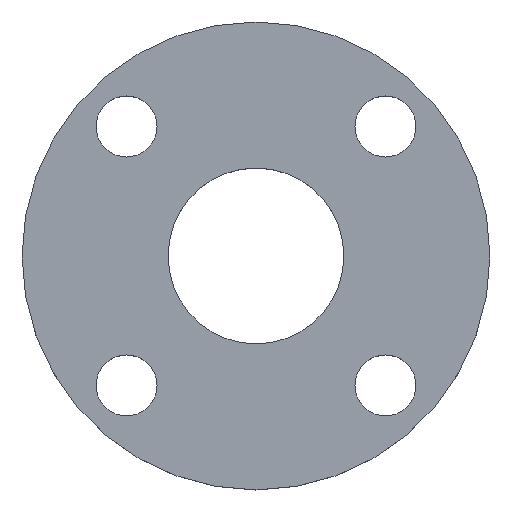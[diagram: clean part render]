
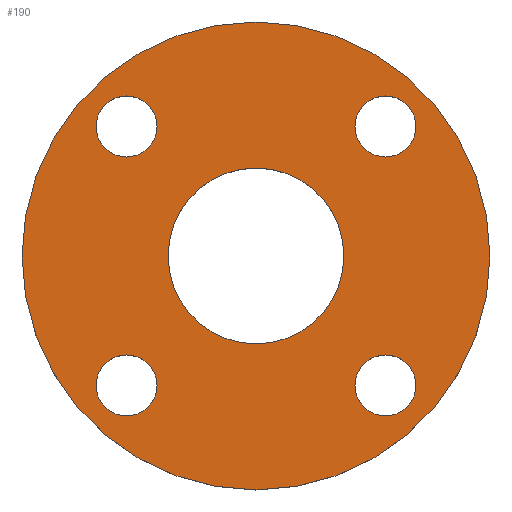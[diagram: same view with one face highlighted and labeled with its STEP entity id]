
A CAD part, top view. The second image highlights one B-rep face of the part: STEP entity #190.
In plain terms, the highlighted planar face has unit normal (0, 0, 1).
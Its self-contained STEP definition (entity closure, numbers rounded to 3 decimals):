
#15=FACE_BOUND('',#42,.T.);
#16=FACE_BOUND('',#43,.T.);
#17=FACE_BOUND('',#44,.T.);
#18=FACE_BOUND('',#45,.T.);
#19=FACE_BOUND('',#46,.T.);
#25=PLANE('',#237);
#33=FACE_OUTER_BOUND('',#41,.T.);
#41=EDGE_LOOP('',(#159,#160));
#42=EDGE_LOOP('',(#161,#162));
#43=EDGE_LOOP('',(#163,#164));
#44=EDGE_LOOP('',(#165,#166));
#45=EDGE_LOOP('',(#167,#168));
#46=EDGE_LOOP('',(#169,#170));
#65=CIRCLE('',#213,7.5);
#66=CIRCLE('',#214,7.5);
#68=CIRCLE('',#217,7.5);
#69=CIRCLE('',#218,7.5);
#71=CIRCLE('',#221,7.5);
#72=CIRCLE('',#222,7.5);
#74=CIRCLE('',#225,7.5);
#75=CIRCLE('',#226,7.5);
#77=CIRCLE('',#229,21.6);
#78=CIRCLE('',#230,21.6);
#80=CIRCLE('',#233,57.5);
#81=CIRCLE('',#234,57.5);
#84=VERTEX_POINT('',#303);
#85=VERTEX_POINT('',#304);
#87=VERTEX_POINT('',#311);
#88=VERTEX_POINT('',#312);
#90=VERTEX_POINT('',#319);
#91=VERTEX_POINT('',#320);
#93=VERTEX_POINT('',#327);
#94=VERTEX_POINT('',#328);
#96=VERTEX_POINT('',#335);
#97=VERTEX_POINT('',#336);
#99=VERTEX_POINT('',#343);
#100=VERTEX_POINT('',#344);
#103=EDGE_CURVE('',#84,#85,#65,.T.);
#104=EDGE_CURVE('',#85,#84,#66,.T.);
#107=EDGE_CURVE('',#87,#88,#68,.T.);
#108=EDGE_CURVE('',#88,#87,#69,.T.);
#111=EDGE_CURVE('',#90,#91,#71,.T.);
#112=EDGE_CURVE('',#91,#90,#72,.T.);
#115=EDGE_CURVE('',#93,#94,#74,.T.);
#116=EDGE_CURVE('',#94,#93,#75,.T.);
#119=EDGE_CURVE('',#96,#97,#77,.T.);
#120=EDGE_CURVE('',#97,#96,#78,.T.);
#123=EDGE_CURVE('',#99,#100,#80,.T.);
#124=EDGE_CURVE('',#100,#99,#81,.T.);
#159=ORIENTED_EDGE('',*,*,#123,.T.);
#160=ORIENTED_EDGE('',*,*,#124,.T.);
#161=ORIENTED_EDGE('',*,*,#103,.T.);
#162=ORIENTED_EDGE('',*,*,#104,.T.);
#163=ORIENTED_EDGE('',*,*,#107,.T.);
#164=ORIENTED_EDGE('',*,*,#108,.T.);
#165=ORIENTED_EDGE('',*,*,#111,.T.);
#166=ORIENTED_EDGE('',*,*,#112,.T.);
#167=ORIENTED_EDGE('',*,*,#115,.T.);
#168=ORIENTED_EDGE('',*,*,#116,.T.);
#169=ORIENTED_EDGE('',*,*,#119,.T.);
#170=ORIENTED_EDGE('',*,*,#120,.T.);
#190=ADVANCED_FACE('',(#33,#15,#16,#17,#18,#19),#25,.T.);
#213=AXIS2_PLACEMENT_3D('',#305,#243,#244);
#214=AXIS2_PLACEMENT_3D('',#306,#245,#246);
#217=AXIS2_PLACEMENT_3D('',#313,#252,#253);
#218=AXIS2_PLACEMENT_3D('',#314,#254,#255);
#221=AXIS2_PLACEMENT_3D('',#321,#261,#262);
#222=AXIS2_PLACEMENT_3D('',#322,#263,#264);
#225=AXIS2_PLACEMENT_3D('',#329,#270,#271);
#226=AXIS2_PLACEMENT_3D('',#330,#272,#273);
#229=AXIS2_PLACEMENT_3D('',#337,#279,#280);
#230=AXIS2_PLACEMENT_3D('',#338,#281,#282);
#233=AXIS2_PLACEMENT_3D('',#345,#288,#289);
#234=AXIS2_PLACEMENT_3D('',#346,#290,#291);
#237=AXIS2_PLACEMENT_3D('',#352,#297,#298);
#243=DIRECTION('center_axis',(0.,0.,-1.));
#244=DIRECTION('ref_axis',(0.,-1.,0.));
#245=DIRECTION('center_axis',(0.,0.,-1.));
#246=DIRECTION('ref_axis',(0.,-1.,0.));
#252=DIRECTION('center_axis',(0.,0.,-1.));
#253=DIRECTION('ref_axis',(-1.,0.,0.));
#254=DIRECTION('center_axis',(0.,0.,-1.));
#255=DIRECTION('ref_axis',(-1.,0.,0.));
#261=DIRECTION('center_axis',(0.,0.,-1.));
#262=DIRECTION('ref_axis',(0.,1.,0.));
#263=DIRECTION('center_axis',(0.,0.,-1.));
#264=DIRECTION('ref_axis',(0.,1.,0.));
#270=DIRECTION('center_axis',(0.,0.,-1.));
#271=DIRECTION('ref_axis',(1.,0.,0.));
#272=DIRECTION('center_axis',(0.,0.,-1.));
#273=DIRECTION('ref_axis',(1.,0.,0.));
#279=DIRECTION('center_axis',(0.,0.,-1.));
#280=DIRECTION('ref_axis',(1.,0.,0.));
#281=DIRECTION('center_axis',(0.,0.,-1.));
#282=DIRECTION('ref_axis',(1.,0.,0.));
#288=DIRECTION('center_axis',(0.,0.,1.));
#289=DIRECTION('ref_axis',(1.,0.,0.));
#290=DIRECTION('center_axis',(0.,0.,1.));
#291=DIRECTION('ref_axis',(1.,0.,0.));
#297=DIRECTION('center_axis',(0.,0.,1.));
#298=DIRECTION('ref_axis',(1.,0.,0.));
#303=CARTESIAN_POINT('',(31.82,24.32,12.));
#304=CARTESIAN_POINT('',(31.82,39.32,12.));
#305=CARTESIAN_POINT('Origin',(31.82,31.82,12.));
#306=CARTESIAN_POINT('Origin',(31.82,31.82,12.));
#311=CARTESIAN_POINT('',(24.32,-31.82,12.));
#312=CARTESIAN_POINT('',(39.32,-31.82,12.));
#313=CARTESIAN_POINT('Origin',(31.82,-31.82,12.));
#314=CARTESIAN_POINT('Origin',(31.82,-31.82,12.));
#319=CARTESIAN_POINT('',(-31.82,-24.32,12.));
#320=CARTESIAN_POINT('',(-31.82,-39.32,12.));
#321=CARTESIAN_POINT('Origin',(-31.82,-31.82,12.));
#322=CARTESIAN_POINT('Origin',(-31.82,-31.82,12.));
#327=CARTESIAN_POINT('',(-24.32,31.82,12.));
#328=CARTESIAN_POINT('',(-39.32,31.82,12.));
#329=CARTESIAN_POINT('Origin',(-31.82,31.82,12.));
#330=CARTESIAN_POINT('Origin',(-31.82,31.82,12.));
#335=CARTESIAN_POINT('',(21.6,0.,12.));
#336=CARTESIAN_POINT('',(-21.6,0.,12.));
#337=CARTESIAN_POINT('Origin',(0.,0.,12.));
#338=CARTESIAN_POINT('Origin',(0.,0.,12.));
#343=CARTESIAN_POINT('',(57.5,0.,12.));
#344=CARTESIAN_POINT('',(-57.5,0.,12.));
#345=CARTESIAN_POINT('Origin',(0.,0.,12.));
#346=CARTESIAN_POINT('Origin',(0.,0.,12.));
#352=CARTESIAN_POINT('Origin',(0.,0.,12.));
